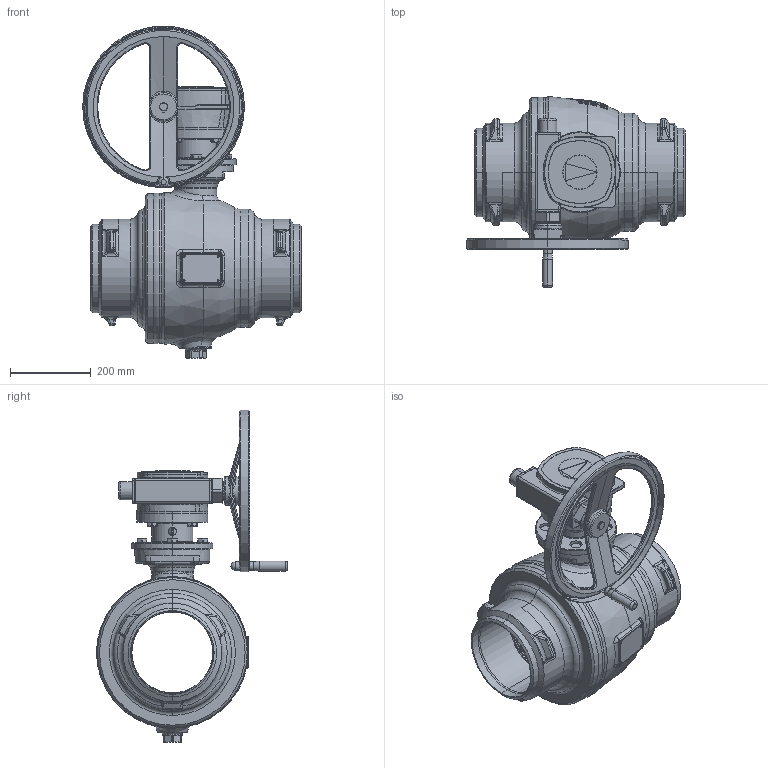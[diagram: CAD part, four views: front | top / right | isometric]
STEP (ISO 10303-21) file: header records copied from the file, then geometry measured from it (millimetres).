
FILE_DESCRIPTION((''),'2;1');
FILE_NAME('ASM0008_ASM','2016-04-29T',('schwaba'),('RAND'),'PRO/ENGINEER BY PARAMETRIC TECHNOLOGY CORPORATION, 2013410','PRO/ENGINEER BY PARAMETRIC TECHNOLOGY CORPORATION, 2013410','');
FILE_SCHEMA(('CONFIG_CONTROL_DESIGN'));
Products named in the file (11): KHISL200VSL200P040MKK_SW0001; PRT0005; PRT0006; PRT0007; ASM0009_ASM; PRT0008; AHR_400_20_M_BALLENGRIFF_1; SKTSCHR_GEWKO_M16X30-5_6_1; ASM0002_ASM_1_ASM; GS80_200_ASM; ASM0008_ASM
Assembly tree (17 placements, depth 5):
  ASM0008_ASM
    KHISL200VSL200P040MKK_SW0001
    GS80_200_ASM
      ASM0002_ASM_1_ASM
        ASM0009_ASM
          PRT0005
          PRT0006
          PRT0007
        PRT0008
        AHR_400_20_M_BALLENGRIFF_1
        SKTSCHR_GEWKO_M16X30-5_6_1  x8
Bounding box: 540.5 x 472.7 x 821 mm (x, y, z)
Volume: 20003157.1 mm3; surface area: 2557437.8 mm2
Topology: 14 solids, 20 shells, 2460 faces, 6177 edges, 3841 vertices
Faces by surface type: plane 1104, cylinder 514, cone 291, torus 254, bspline 223, sphere 74
Entity records: 111542 total; most frequent: CARTESIAN_POINT 57638, DIRECTION 11686, ORIENTED_EDGE 11314, EDGE_CURVE 5657, AXIS2_PLACEMENT_3D 4970, VERTEX_POINT 3519, CIRCLE 2900, EDGE_LOOP 2412
